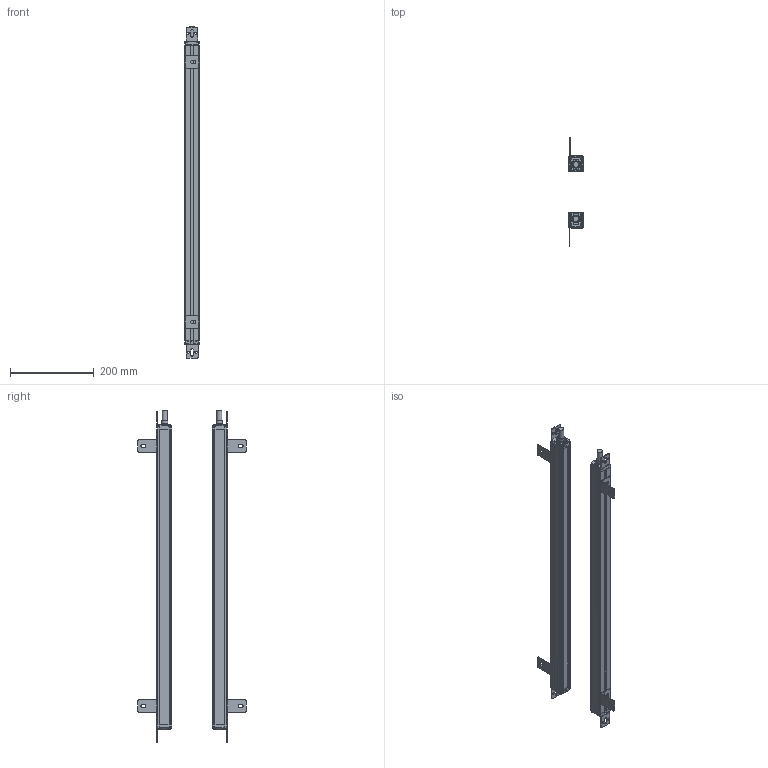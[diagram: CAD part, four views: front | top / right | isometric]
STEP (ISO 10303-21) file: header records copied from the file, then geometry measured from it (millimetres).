
FILE_DESCRIPTION(/* description */ (''),/* implementation_level */ '2;1');
FILE_NAME(/* name */ '3420_35X35_stp.stp',/* time_stamp */ '2023-09-18T16:22:01+08:00',/* author */ (''),/* organization */ (''),/* preprocessor_version */ 'ST-DEVELOPER v16.7',/* originating_system */ 'SIEMENS PLM Software NX 12.0',/* authorisation */ '');
FILE_SCHEMA (('AP203_CONFIGURATION_CONTROLLED_3D_DESIGN_OF_MECHANICAL_PARTS_AND_ASSEMBLIES_MIM_LF { 1 0 10303 403 2 1 2}'));
Length unit declared in the file: millimetre
Products named in the file (1): 3420_35X35_stp_stp
Bounding box: 35.41 x 258.01 x 791.6 mm (x, y, z)
Volume: 722788.2 mm3; surface area: 548227.5 mm2
Topology: 28 solids, 28 shells, 1182 faces, 3360 edges, 2260 vertices
Faces by surface type: plane 658, cylinder 464, cone 60
Full cylindrical faces by diameter (mm): 3.2 x8, 6 x24, 13 x2, 14.4 x2, 15 x2
Entity records: 39055 total; most frequent: DIRECTION 6832, CARTESIAN_POINT 6745, ORIENTED_EDGE 6612, EDGE_CURVE 3306, AXIS2_PLACEMENT_3D 2347, VERTEX_POINT 2244, LINE 2138, VECTOR 2138
